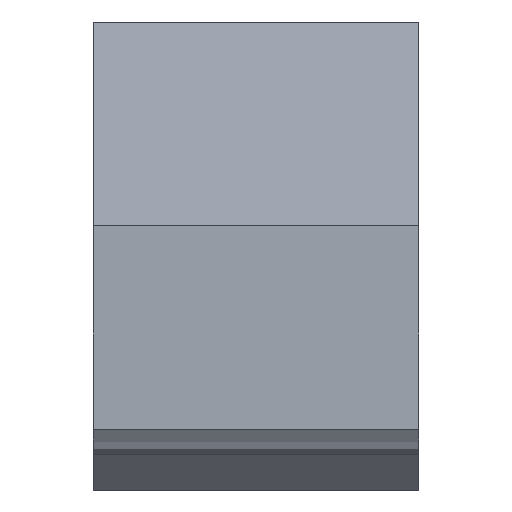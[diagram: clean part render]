
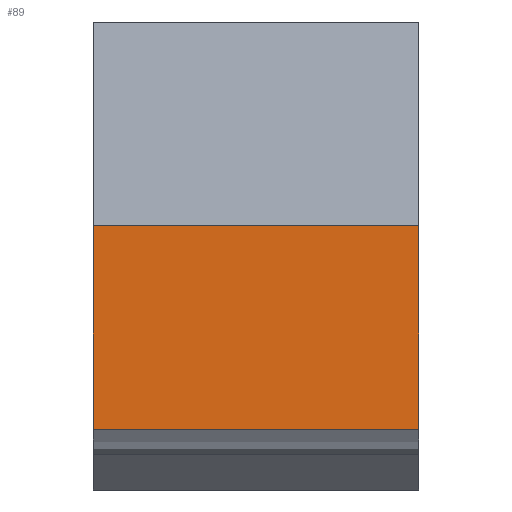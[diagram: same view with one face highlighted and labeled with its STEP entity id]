
A CAD part, left-side view. The second image highlights one B-rep face of the part: STEP entity #89.
In plain terms, the highlighted planar face has unit normal (-1, 0, 0).
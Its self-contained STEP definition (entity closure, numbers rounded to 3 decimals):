
#89 = ADVANCED_FACE( '', ( #130 ), #131, .T. );
#130 = FACE_OUTER_BOUND( '', #180, .T. );
#131 = PLANE( '', #181 );
#180 = EDGE_LOOP( '', ( #326, #327, #328, #329 ) );
#181 = AXIS2_PLACEMENT_3D( '', #330, #331, #332 );
#326 = ORIENTED_EDGE( '', *, *, #420, .F. );
#327 = ORIENTED_EDGE( '', *, *, #432, .F. );
#328 = ORIENTED_EDGE( '', *, *, #398, .T. );
#329 = ORIENTED_EDGE( '', *, *, #387, .T. );
#330 = CARTESIAN_POINT( '', ( -27., -8., -5.025 ) );
#331 = DIRECTION( '', ( -1., 0., 0. ) );
#332 = DIRECTION( '', ( 0., 0., 1. ) );
#387 = EDGE_CURVE( '', #453, #450, #454, .T. );
#398 = EDGE_CURVE( '', #472, #453, #473, .T. );
#420 = EDGE_CURVE( '', #513, #450, #515, .T. );
#432 = EDGE_CURVE( '', #472, #513, #528, .T. );
#450 = VERTEX_POINT( '', #554 );
#453 = VERTEX_POINT( '', #558 );
#454 = LINE( '', #559, #560 );
#472 = VERTEX_POINT( '', #585 );
#473 = LINE( '', #586, #587 );
#513 = VERTEX_POINT( '', #640 );
#515 = LINE( '', #642, #643 );
#528 = LINE( '', #667, #668 );
#554 = CARTESIAN_POINT( '', ( -27., 8., 5. ) );
#558 = CARTESIAN_POINT( '', ( -27., -8., 5. ) );
#559 = CARTESIAN_POINT( '', ( -27., -8., 5. ) );
#560 = VECTOR( '', #687, 1000. );
#585 = CARTESIAN_POINT( '', ( -27., -8., -5.025 ) );
#586 = CARTESIAN_POINT( '', ( -27., -8., -5.025 ) );
#587 = VECTOR( '', #704, 1000. );
#640 = CARTESIAN_POINT( '', ( -27., 8., -5.025 ) );
#642 = CARTESIAN_POINT( '', ( -27., 8., -5.025 ) );
#643 = VECTOR( '', #742, 1000. );
#667 = CARTESIAN_POINT( '', ( -27., -8., -5.025 ) );
#668 = VECTOR( '', #754, 1000. );
#687 = DIRECTION( '', ( 0., 1., 0. ) );
#704 = DIRECTION( '', ( 0., 0., 1. ) );
#742 = DIRECTION( '', ( 0., 0., 1. ) );
#754 = DIRECTION( '', ( 0., 1., 0. ) );
